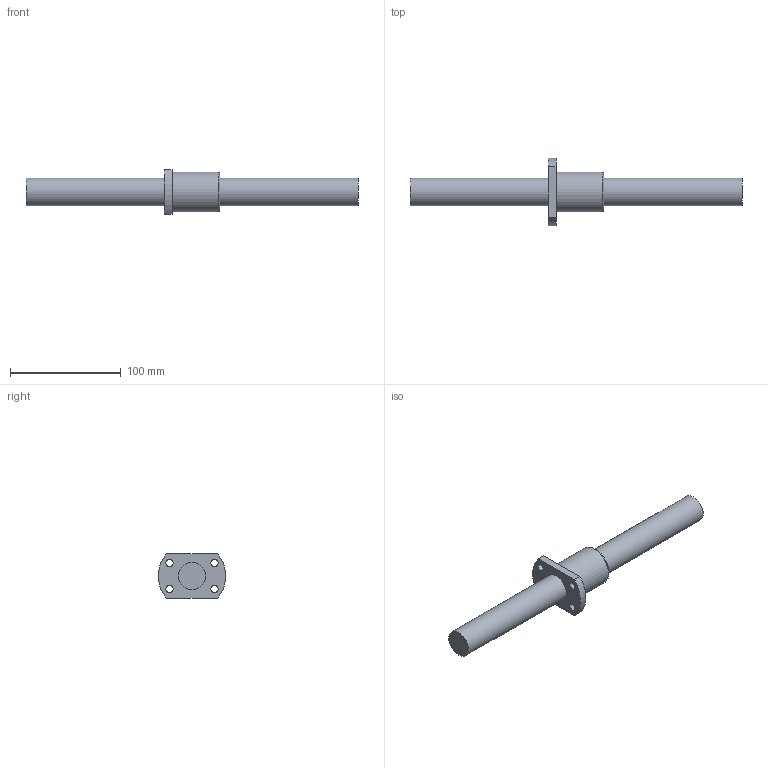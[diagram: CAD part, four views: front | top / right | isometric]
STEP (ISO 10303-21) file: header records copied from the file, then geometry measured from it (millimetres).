
FILE_DESCRIPTION((''),'2;1');
FILE_NAME('D:\製品 (図面)\カタログ用3D\ネジ関連\STEP形式\TMK\TMK25.stp','2010-06-02T15:24:28',('Tsuchiya'),(''),'Autodesk Inventor 10','Autodesk Inventor 10','');
FILE_SCHEMA(('AUTOMOTIVE_DESIGN { 1 0 10303 214 1 1 1 1 }'));
Length unit declared in the file: millimetre
Products named in the file (3): TMK25; TMK251; TMK252
Assembly tree (2 placements, depth 2):
  TMK25
    TMK251
    TMK252
Bounding box: 300 x 60.81 x 40 mm (x, y, z)
Volume: 181243 mm3; surface area: 38319.6 mm2
Topology: 2 solids, 2 shells, 18 faces, 41 edges, 28 vertices
Faces by surface type: plane 7, cylinder 5, bspline 5, torus 1
Full cylindrical faces by diameter (mm): 25 x2, 36 x1
Entity records: 628 total; most frequent: CARTESIAN_POINT 187, DIRECTION 84, ORIENTED_EDGE 56, AXIS2_PLACEMENT_3D 38, EDGE_LOOP 38, EDGE_CURVE 28, VERTEX_POINT 24, CIRCLE 20
